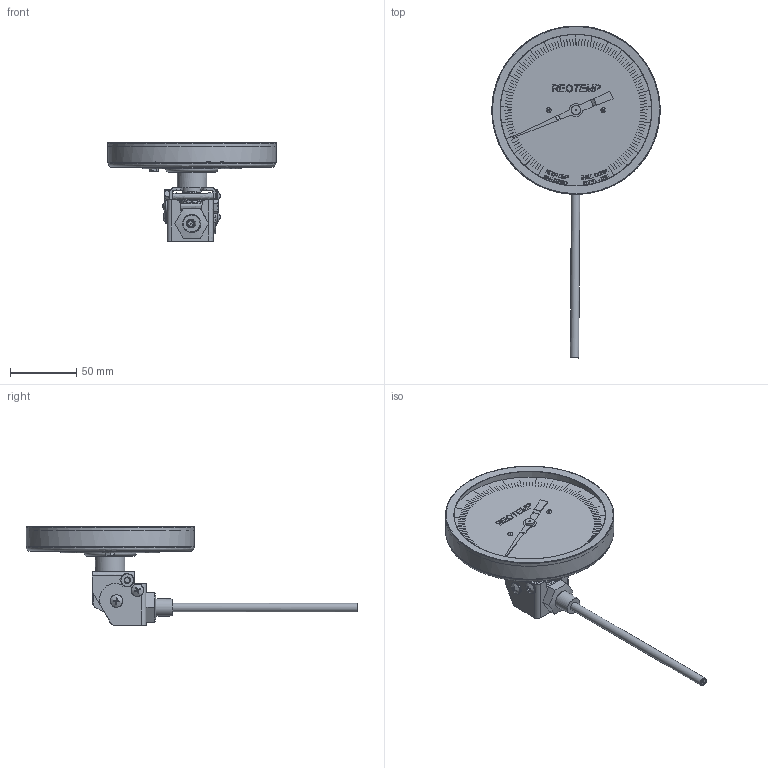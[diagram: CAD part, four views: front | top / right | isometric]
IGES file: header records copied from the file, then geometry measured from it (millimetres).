
Global section: file name: JJ-quarter-NPT-IGS; native system: Autodesk Inventor 2014; preprocessor: unknown; author: Charles; date: 20151109.151533; units: inch
Bounding box: 127 x 250.48 x 74.36 mm (x, y, z)
Volume: 114190.1 mm3; surface area: 85868 mm2
Topology: 17 solids, 35 shells, 1722 faces, 4505 edges, 2988 vertices
Faces by surface type: bspline 1722
